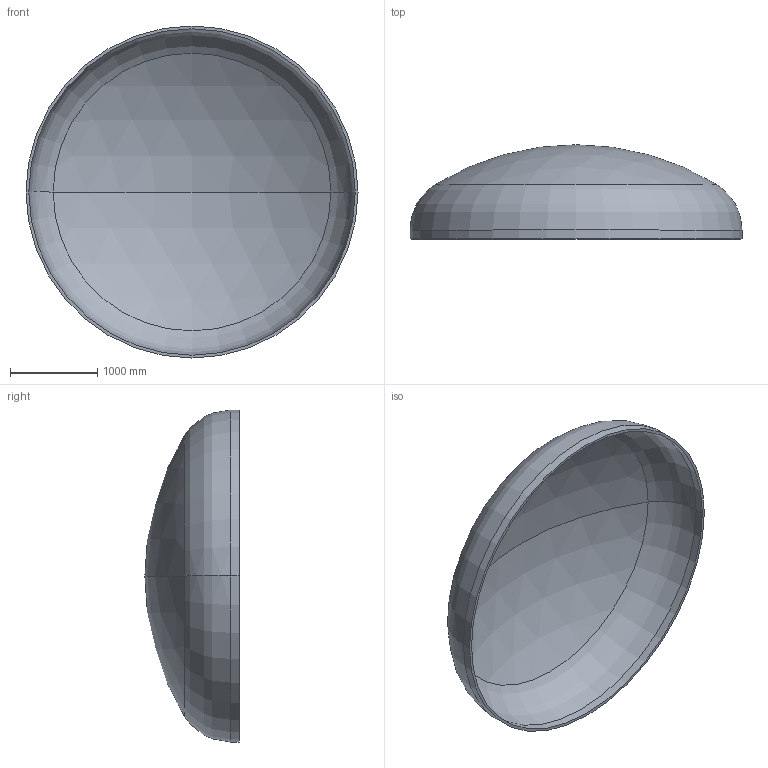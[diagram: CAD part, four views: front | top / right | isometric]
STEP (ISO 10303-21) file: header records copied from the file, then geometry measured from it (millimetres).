
FILE_DESCRIPTION (( 'STEP AP203' ), '1' );
FILE_NAME ('DIN 28013 Korbbogenform_-_Boden DIN 28013 - 3800 x 100 - I - s=32.step', '2016-07-01T21:17:00', ( '' ), ( '' ), 'SwSTEP 2.0', 'SolidWorks 2013', '' );
FILE_SCHEMA (( 'CONFIG_CONTROL_DESIGN' ));
Length unit declared in the file: millimetre
Products named in the file (1): DIN 28013 Korbbogenform_-_Boden DIN 28013 - 3800 x 100 - I - s=32
Bounding box: 3800 x 1078.93 x 3800 mm (x, y, z)
Volume: 534917145 mm3; surface area: 33813254.3 mm2
Topology: 1 solids, 1 shells, 13 faces, 24 edges, 14 vertices
Faces by surface type: torus 4, cylinder 4, sphere 4, plane 1
Entity records: 407 total; most frequent: DIRECTION 72, CARTESIAN_POINT 52, ORIENTED_EDGE 48, AXIS2_PLACEMENT_3D 34, EDGE_CURVE 24, CIRCLE 20, EDGE_LOOP 14, VERTEX_POINT 14
